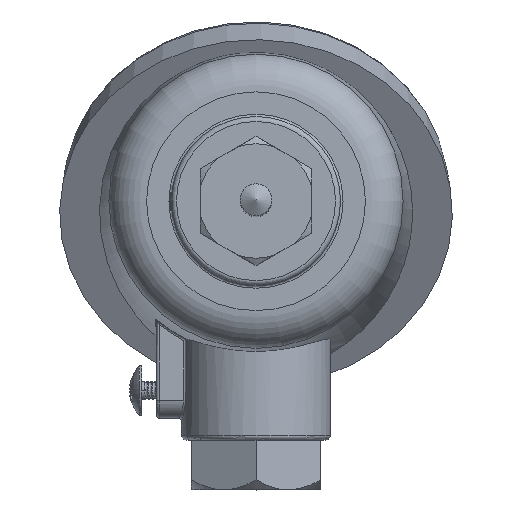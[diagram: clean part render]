
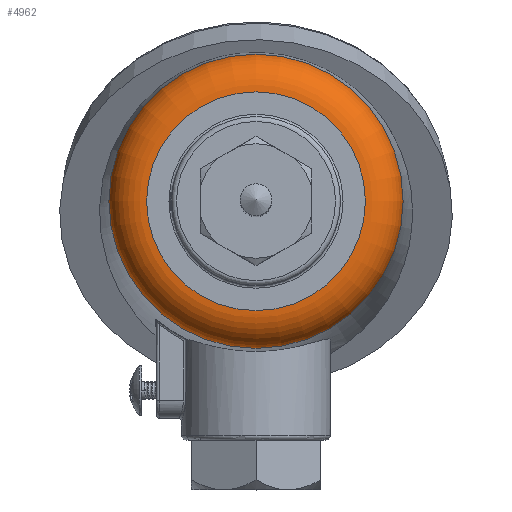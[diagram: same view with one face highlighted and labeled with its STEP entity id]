
A CAD part, top view. The second image highlights one B-rep face of the part: STEP entity #4962.
In plain terms, the highlighted toroidal (fillet/blend) face has major radius 22 mm and minor radius 7.622 mm.
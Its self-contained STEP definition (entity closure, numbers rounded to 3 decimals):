
#40 = ORIENTED_EDGE ( 'NONE', *, *, #7245, .F. ) ;
#469 = CARTESIAN_POINT ( 'NONE',  ( 0., 0., -25.6 ) ) ;
#512 = CARTESIAN_POINT ( 'NONE',  ( 0., 0., -32.6 ) ) ;
#1135 = DIRECTION ( 'NONE',  ( 0., -1., 0. ) ) ;
#1373 = EDGE_CURVE ( 'NONE', #6024, #6024, #5680, .T. ) ;
#2369 = DIRECTION ( 'NONE',  ( 0., 0., 1. ) ) ;
#2410 = TOROIDAL_SURFACE ( 'NONE', #7005, 22., 7.622 ) ;
#2490 = CARTESIAN_POINT ( 'NONE',  ( 0., -22., -25.6 ) ) ;
#2985 = DIRECTION ( 'NONE',  ( 0., -1., 0. ) ) ;
#3581 = FACE_OUTER_BOUND ( 'NONE', #3863, .T. ) ;
#3823 = DIRECTION ( 'NONE',  ( 0., 0., 1. ) ) ;
#3863 = EDGE_LOOP ( 'NONE', ( #4701 ) ) ;
#4406 = CARTESIAN_POINT ( 'NONE',  ( 0., 0., -33.222 ) ) ;
#4436 = AXIS2_PLACEMENT_3D ( 'NONE', #469, #5374, #2985 ) ;
#4451 = DIRECTION ( 'NONE',  ( 0., -1., 0. ) ) ;
#4632 = AXIS2_PLACEMENT_3D ( 'NONE', #512, #2369, #1135 ) ;
#4701 = ORIENTED_EDGE ( 'NONE', *, *, #1373, .T. ) ;
#4962 = ADVANCED_FACE ( 'NONE', ( #3581, #6086 ), #2410, .T. ) ;
#5374 = DIRECTION ( 'NONE',  ( 0., 0., 1. ) ) ;
#5537 = CARTESIAN_POINT ( 'NONE',  ( 0., -29.597, -32.6 ) ) ;
#5680 = CIRCLE ( 'NONE', #4632, 29.597 ) ;
#6024 = VERTEX_POINT ( 'NONE', #5537 ) ;
#6086 = FACE_OUTER_BOUND ( 'NONE', #7864, .T. ) ;
#7005 = AXIS2_PLACEMENT_3D ( 'NONE', #4406, #3823, #4451 ) ;
#7245 = EDGE_CURVE ( 'NONE', #7386, #7386, #7321, .T. ) ;
#7321 = CIRCLE ( 'NONE', #4436, 22. ) ;
#7386 = VERTEX_POINT ( 'NONE', #2490 ) ;
#7864 = EDGE_LOOP ( 'NONE', ( #40 ) ) ;
